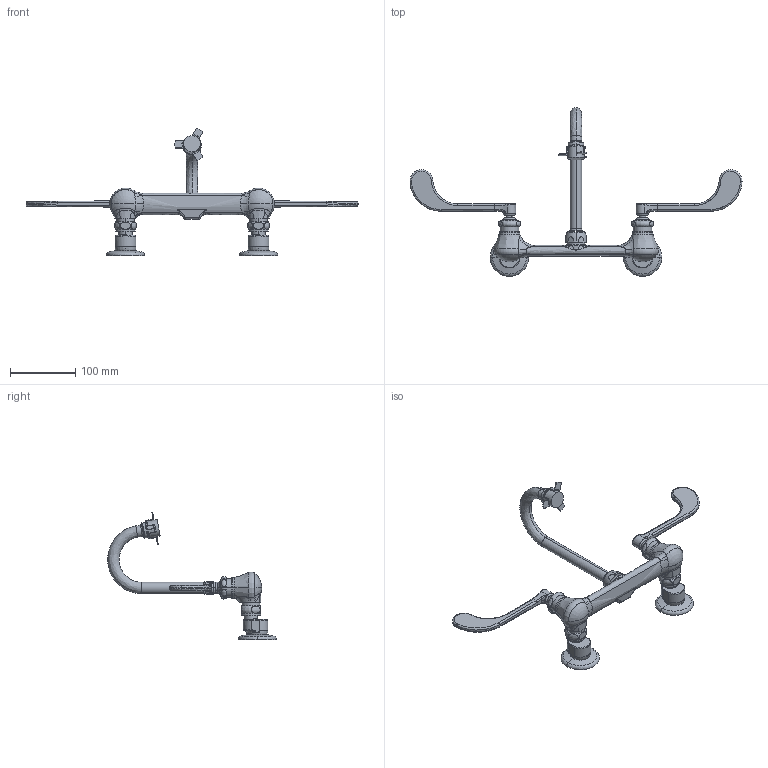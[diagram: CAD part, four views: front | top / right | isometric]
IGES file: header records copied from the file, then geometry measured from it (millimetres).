
Start section:  PTC IGES file: 631-E19-319CP_REV100511.igs
Global section: file name: 631-E19-319CP_REV100511.igs; native system: Pro/ENGINEER by Parametric Technology Corporation; preprocessor: 2010230; author: sdmitruk; organization: Unknown; date: 20111005.095006; units: inch
Bounding box: 508.7 x 258.54 x 195.24 mm (x, y, z)
Surface area: 110919.2 mm2 (no closed solid volume)
Topology: 0 solids, 0 shells, 469 faces, 3241 edges, 4246 vertices
Faces by surface type: bspline 271, revolution 198
